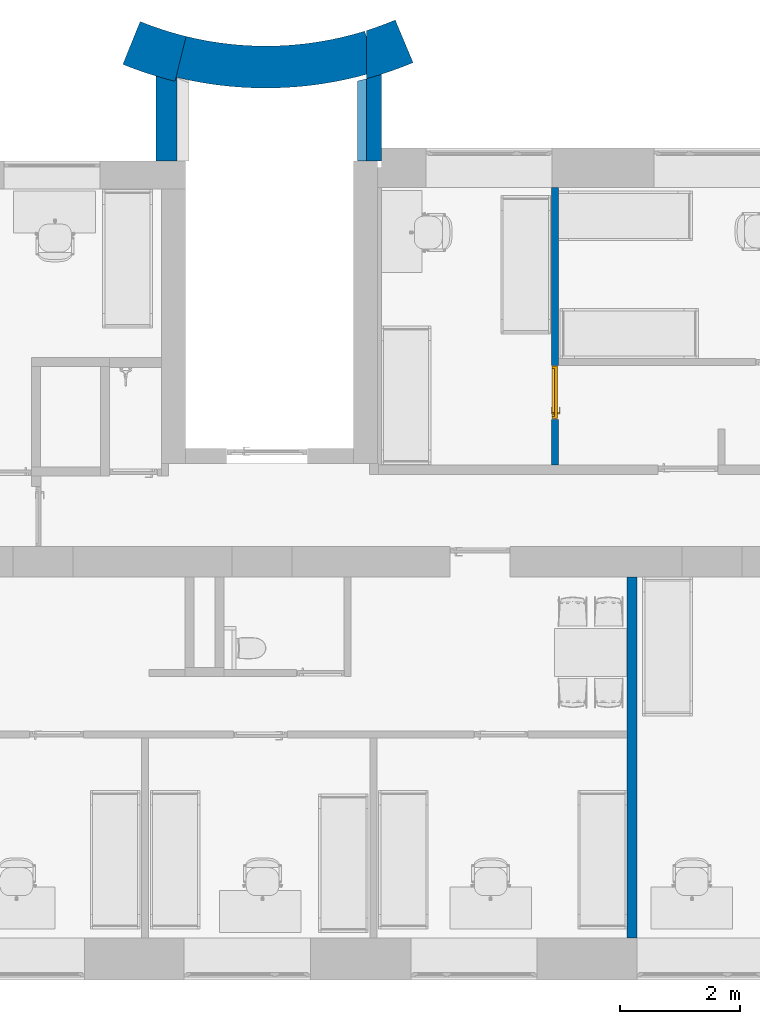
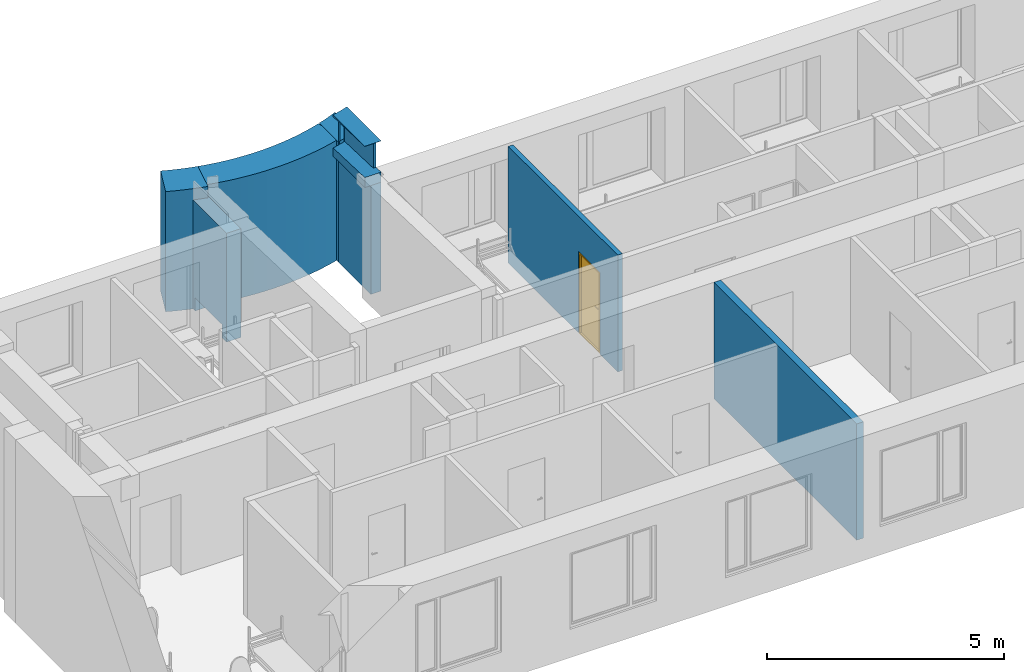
# One storey, part 7 of 46: 8 walls, 1 door, 5 openings.
"""IFC2X3 building model written with IfcOpenShell, lengths in millimetres."""

from ifc_helpers import new_model, entity, si_unit, converted_unit, derived_unit, direction, frame, frame_2d, origin, place, context, subcontext, project, spatial, polyline, circle_curve, parameter, trimmed, segment, composite_curve, rectangle, outline, extrude, clip, bounded_halfspace, faceted_brep, source, transform, mapped, material, material_list, layer, layer_set, layer_usage, type_object, type_shapes, element, fill, save


model = new_model("IFC2X3")

# Units and contexts
model_context = context("Model", 3, precision=0.01, world=origin(), true_north=direction((6.12303176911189e-17, 1.0)))
body_context = subcontext(model_context, "Body", "Model", "MODEL_VIEW")
ifc_project = project(units=[si_unit("LENGTHUNIT", "METRE", prefix="MILLI"), si_unit("AREAUNIT", "SQUARE_METRE"), si_unit("VOLUMEUNIT", "CUBIC_METRE"), converted_unit("PLANEANGLEUNIT", "DEGREE", entity("IfcRatioMeasure", 0.0174532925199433), si_unit("PLANEANGLEUNIT", "RADIAN"), dimensions=[0, 0, 0, 0, 0, 0, 0]), si_unit("MASSUNIT", "GRAM", prefix="KILO"), derived_unit("MASSDENSITYUNIT", [(si_unit("MASSUNIT", "GRAM", prefix="KILO"), 1), (si_unit("LENGTHUNIT", "METRE"), -3)]), si_unit("TIMEUNIT", "SECOND"), si_unit("FREQUENCYUNIT", "HERTZ"), si_unit("THERMODYNAMICTEMPERATUREUNIT", "DEGREE_CELSIUS"), derived_unit("THERMALTRANSMITTANCEUNIT", [(si_unit("MASSUNIT", "GRAM", prefix="KILO"), 1), (si_unit("THERMODYNAMICTEMPERATUREUNIT", "KELVIN"), -1), (si_unit("TIMEUNIT", "SECOND"), -3)]), derived_unit("VOLUMETRICFLOWRATEUNIT", [(si_unit("LENGTHUNIT", "METRE"), 3), (si_unit("TIMEUNIT", "SECOND"), -1)]), si_unit("ELECTRICCURRENTUNIT", "AMPERE"), si_unit("ELECTRICVOLTAGEUNIT", "VOLT"), si_unit("POWERUNIT", "WATT"), si_unit("FORCEUNIT", "NEWTON", prefix="KILO"), si_unit("ILLUMINANCEUNIT", "LUX"), si_unit("LUMINOUSFLUXUNIT", "LUMEN"), si_unit("LUMINOUSINTENSITYUNIT", "CANDELA"), derived_unit("USERDEFINED", [(si_unit("MASSUNIT", "GRAM", prefix="KILO"), -1), (si_unit("LENGTHUNIT", "METRE"), -2), (si_unit("TIMEUNIT", "SECOND"), 3), (si_unit("LUMINOUSFLUXUNIT", "LUMEN"), 1)]), derived_unit("LINEARVELOCITYUNIT", [(si_unit("LENGTHUNIT", "METRE"), 1), (si_unit("TIMEUNIT", "SECOND"), -1)]), si_unit("PRESSUREUNIT", "PASCAL"), derived_unit("USERDEFINED", [(si_unit("LENGTHUNIT", "METRE"), -2), (si_unit("MASSUNIT", "GRAM", prefix="KILO"), 1), (si_unit("TIMEUNIT", "SECOND"), -2)]), derived_unit("LINEARFORCEUNIT", [(si_unit("MASSUNIT", "GRAM", prefix="KILO"), 1), (si_unit("LENGTHUNIT", "METRE"), 1), (si_unit("TIMEUNIT", "SECOND"), -2), (si_unit("LENGTHUNIT", "METRE"), -1)]), derived_unit("PLANARFORCEUNIT", [(si_unit("MASSUNIT", "GRAM", prefix="KILO"), 1), (si_unit("LENGTHUNIT", "METRE"), 1), (si_unit("TIMEUNIT", "SECOND"), -2), (si_unit("LENGTHUNIT", "METRE"), -2)])], contexts=[model_context])

# Site, building, storey
site_placement = place(None, origin())
site = spatial("IfcSite", under=ifc_project, at=site_placement, Name="Default", CompositionType="ELEMENT")
building_placement = place(site_placement, origin())
building = spatial("IfcBuilding", under=site, at=building_placement, Name="SMA ARH", CompositionType="ELEMENT")
storey_placement = place(building_placement, frame((0.0, 0.0, 9910.0)))
storey = spatial("IfcBuildingStorey", under=building, at=storey_placement, Name="4 Korrus", CompositionType="ELEMENT", Elevation=9909.9999999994)

# Wall, opening
ifc_material_1 = material(Name="_ol.olev sein")
ifc_layer_1 = layer(ifc_material_1, 700.0)
ifc_layer_set_1 = layer_set([ifc_layer_1], Name="Basic Wall:Generic - 700mm")
ifc_layer_usage_1 = layer_usage(ifc_layer_set_1, "AXIS2", "POSITIVE", -350.0)
wall_type_1 = type_object("IfcWallType", Name="Basic Wall:Generic - 700mm", PredefinedType="STANDARD", material=ifc_layer_set_1)
wall_1_placement = place(storey_placement, frame((11890.0, 14774.5624846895, 0.0)))
wall_1 = element("IfcWallStandardCase", 1, at=wall_1_placement, inside=storey, type_object=wall_type_1, material=ifc_layer_usage_1, Name="Basic Wall:Generic - 700mm", ObjectType="Basic Wall:Generic - 700mm", context=body_context, shape_type="Clipping", body=[
    clip(extrude(outline(composite_curve([segment(trimmed(circle_curve(frame_2d((-1750.0, 5655.5764041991), x_axis=(1.0, 0.0)), 6270.13888888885), [parameter(256.197654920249)], [parameter(287.193589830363)], True, "PARAMETER"), True, "CONTINUOUS"), segment(polyline([(103.460410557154, -334.359003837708), (-103.460410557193, 334.359003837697)]), True, "CONTINUOUS"), segment(trimmed(circle_curve(frame_2d((-1750.0, 5655.5764041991), x_axis=(1.0, 0.0)), 5570.13888888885), [parameter(256.197654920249)], [parameter(287.193589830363)], True, "PARAMETER"), False, "CONTINUOUS"), segment(polyline([(-3078.88588861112, 246.277971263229), (-3245.88713231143, -433.509189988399)]), True, "CONTINUOUS")], self_intersect=False)), origin(), (0.0, 0.0, 1.0), 3090.00000000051), bounded_halfspace(frame((-70.0, 226.2230561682, 3090.0), z_axis=(-1.0, 0.0, 0.0), x_axis=(0.0, -1.0, 0.0)), True, frame((-70.0, 226.2230561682, 3090.0), z_axis=(-1.0, 0.0, 0.0), x_axis=(0.0, -1.0, 0.0)), polyline([(0.0, 0.0), (0.0, -3090.0), (611.527522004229, -3090.0), (611.527522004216, 0.0), (0.0, 0.0)]))),
])
opening_1_placement = place(wall_1_placement, origin())
element("IfcOpeningElement", 2, at=opening_1_placement, cuts=wall_1, Name="Basic Wall:Generic - 700mm", ObjectType="Recess", context=body_context, shape_type="SweptSolid", body=[
    extrude(rectangle(XDim=349.999999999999, YDim=1140.0, at=frame_2d((-5.40012479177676e-13, 0.0), x_axis=(1.0, 0.0))), frame((-3405.0, -1074.56248468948, -330.0)), (0.0, 0.0, 1.0), 669.999999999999),
])

ifc_layer_2 = layer(ifc_material_1, 400.0)
ifc_layer_set_2 = layer_set([ifc_layer_2], Name="Basic Wall:Generic - 400mm")
ifc_layer_usage_2 = layer_usage(ifc_layer_set_2, "AXIS2", "POSITIVE", -200.0)
wall_type_2 = type_object("IfcWallType", Name="Basic Wall:Generic - 400mm", PredefinedType="STANDARD", material=ifc_layer_set_2)
wall_2_placement = place(storey_placement, frame((11870.0, 12945.0, 2800.0), z_axis=(0.0, 0.0, 1.0), x_axis=(0.0, 1.0, 0.0)))
wall_2 = element("IfcWallStandardCase", 3, at=wall_2_placement, inside=storey, type_object=wall_type_2, material=ifc_layer_usage_2, Name="Basic Wall:Generic - 400mm", ObjectType="Basic Wall:Generic - 400mm", context=body_context, shape_type="SweptSolid", body=[
    extrude(outline(polyline([(1445.89546521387, -200.0), (1407.47666659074, -75.3761497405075), (1371.63484035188, 49.9914655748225), (1351.54867665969, 124.873139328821), (1332.37844089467, 200.0), (0.0, 200.0), (0.0, 50.0), (0.0, -200.0), (1445.89546521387, -200.0)])), origin(), (0.0, 0.0, 1.0), 1061.8270234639),
])
opening_2_placement = place(storey_placement, frame((11870.0, 12945.0, 2800.0), z_axis=(0.0, 0.0, 1.0), x_axis=(0.0, 1.0, 0.0)))
element("IfcOpeningElement", 4, at=opening_2_placement, cuts=wall_2, Name="Basic Wall:Generic - 400mm:1", ObjectType="Opening", context=body_context, shape_type="SweptSolid", body=[
    extrude(outline(polyline([(-351.932497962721, -87.7755249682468), (853.768661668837, -87.7755249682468), (805.172140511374, 78.2144253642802), (761.12398686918, 245.467324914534), (-572.066597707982, 245.467324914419), (-572.066597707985, -84.5326750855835), (-572.066597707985, -154.532675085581), (-351.932497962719, -154.532675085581), (-351.932497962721, -87.7755249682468)])), frame((571.718110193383, -45.4673249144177, 237.717732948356), z_axis=(0.0348994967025, 0.0, 0.999390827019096), x_axis=(0.999390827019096, 0.0, -0.0348994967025)), (-0.0348994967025, 0.0, 0.999390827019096), 800.487635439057),
])

# Wall
ifc_layer_3 = layer(ifc_material_1, 770.0)
ifc_layer_set_3 = layer_set([ifc_layer_3], Name="Basic Wall:Generic - 770mm")
ifc_layer_usage_3 = layer_usage(ifc_layer_set_3, "AXIS2", "POSITIVE", -385.0)
wall_type_3 = type_object("IfcWallType", Name="Basic Wall:Generic - 770mm", PredefinedType="STANDARD", material=ifc_layer_set_3)
wall_3_placement = place(storey_placement, frame((12444.4838887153, 14938.9611288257, 0.0)))
element("IfcWallStandardCase", 5, at=wall_3_placement, inside=storey, type_object=wall_type_3, material=ifc_layer_usage_3, Name="Basic Wall:Generic - 770mm", ObjectType="Basic Wall:Generic - 770mm", context=body_context, shape_type="SweptSolid", body=[
    extrude(outline(composite_curve([segment(polyline([(-624.483888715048, -622.328691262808), (-499.086654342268, -586.478198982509)]), True, "CONTINUOUS"), segment(polyline([(-499.086654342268, -586.478198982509), (-374.480318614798, -548.064517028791)]), True, "CONTINUOUS"), segment(polyline([(-374.480318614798, -548.064517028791), (-198.128190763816, -488.841203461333)]), True, "CONTINUOUS"), segment(polyline([(-198.128190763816, -488.841203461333), (-23.6022534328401, -424.474367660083)]), True, "CONTINUOUS"), segment(polyline([(-23.6022534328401, -424.474367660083), (148.984988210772, -355.004891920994)]), True, "CONTINUOUS"), segment(polyline([(148.984988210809, -355.004891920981), (-148.984988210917, 355.004891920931)]), True, "CONTINUOUS"), segment(trimmed(circle_curve(frame_2d((-2304.48388871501, 5491.17776006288), x_axis=(1.0, 0.0)), 5570.13888888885), [parameter(287.554225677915)], [parameter(292.766343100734)], True, "PARAMETER"), False, "CONTINUOUS"), segment(polyline([(-624.483888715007, 180.429484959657), (-624.483888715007, 61.8244120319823)]), True, "CONTINUOUS"), segment(polyline([(-624.483888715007, 61.8244120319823), (-624.483888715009, -549.703109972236)]), True, "CONTINUOUS"), segment(polyline([(-624.483888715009, -549.703109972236), (-624.483888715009, -622.328691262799)]), True, "CONTINUOUS")], self_intersect=False)), origin(), (0.0, 0.0, 1.0), 3090.00000000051),
])

# Wall, opening
ifc_layer_usage_4 = layer_usage(ifc_layer_set_3, "AXIS2", "POSITIVE", -385.0)
wall_4_placement = place(storey_placement, frame((8719.26342735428, 14646.9575172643, 0.0)))
wall_4 = element("IfcWallStandardCase", 6, at=wall_4_placement, inside=storey, type_object=wall_type_3, material=ifc_layer_usage_4, Name="Basic Wall:Generic - 770mm", ObjectType="Basic Wall:Generic - 770mm", context=body_context, shape_type="SweptSolid", body=[
    extrude(outline(composite_curve([segment(trimmed(circle_curve(frame_2d((1420.73657264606, 5783.1813716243), x_axis=(1.0, 0.0)), 6340.13888888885), [parameter(247.920826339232)], [parameter(256.19765492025)], True, "PARAMETER"), True, "CONTINUOUS"), segment(polyline([(-91.8506840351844, -373.882938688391), (91.8506840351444, 373.882938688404)]), True, "CONTINUOUS"), segment(trimmed(circle_curve(frame_2d((1420.73657264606, 5783.1813716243), x_axis=(1.0, 0.0)), 5570.13888888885), [parameter(247.920826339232)], [parameter(256.19765492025)], True, "PARAMETER"), False, "CONTINUOUS"), segment(polyline([(-673.008764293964, 621.526820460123), (-962.442105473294, -92.0054780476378)]), True, "CONTINUOUS")], self_intersect=False)), origin(), (0.0, 0.0, 1.0), 3090.00000000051),
])
opening_3_placement = place(wall_4_placement, origin())
element("IfcOpeningElement", 7, at=opening_3_placement, cuts=wall_4, Name="Basic Wall:Generic - 770mm", ObjectType="Recess", context=body_context, shape_type="SweptSolid", body=[
    extrude(rectangle(XDim=349.999999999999, YDim=1140.0, at=frame_2d((-5.40012479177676e-13, 0.0), x_axis=(1.0, 0.0))), frame((-234.263427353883, -946.957517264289, -330.0)), (0.0, 0.0, 1.0), 669.999999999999),
])

# Wall
ifc_layer_4 = layer(ifc_material_1, 250.0)
ifc_layer_set_4 = layer_set([ifc_layer_4], Name="Basic Wall:Generic - 250mm")
ifc_layer_usage_5 = layer_usage(ifc_layer_set_4, "AXIS2", "POSITIVE", -125.0)
wall_type_4 = type_object("IfcWallType", Name="Basic Wall:Generic - 250mm", PredefinedType="STANDARD", material=ifc_layer_set_4)
wall_5_placement = place(storey_placement, frame((11945.0, 12945.0, 0.0), z_axis=(0.0, 0.0, 1.0), x_axis=(0.0, 1.0, 0.0)))
element("IfcWallStandardCase", 8, at=wall_5_placement, inside=storey, type_object=wall_type_4, material=ifc_layer_usage_5, Name="Basic Wall:Generic - 250mm", ObjectType="Basic Wall:Generic - 250mm", context=body_context, shape_type="SweptSolid", body=[
    extrude(outline(composite_curve([segment(trimmed(circle_curve(frame_2d((7485.13888888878, 1805.0), x_axis=(0.0, -1.0)), 6340.13888888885), [parameter(285.365670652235)], [parameter(287.72265569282)], True, "PARAMETER"), False, "CONTINUOUS"), segment(polyline([(1371.6324375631, 125.0), (1368.62565157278, 125.0)]), True, "CONTINUOUS"), segment(polyline([(1368.62565157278, 125.0), (220.0, 125.0)]), True, "CONTINUOUS"), segment(polyline([(220.0, 125.0), (0.0, 125.0)]), True, "CONTINUOUS"), segment(polyline([(0.0, 125.0), (0.0, -55.0)]), True, "CONTINUOUS"), segment(polyline([(0.0, -55.0), (0.0, -125.0)]), True, "CONTINUOUS"), segment(polyline([(0.0, -125.0), (220.0, -125.0)]), True, "CONTINUOUS"), segment(polyline([(220.0, -125.0), (1442.68772492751, -125.0)]), True, "CONTINUOUS"), segment(polyline([(1442.68772492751, -125.0), (1445.89546521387, -125.0)]), True, "CONTINUOUS")], self_intersect=False)), origin(), (0.0, 0.0, 1.0), 2800.0),
])

# Wall, opening
ifc_layer_5 = layer(ifc_material_1, 350.0)
ifc_layer_set_5 = layer_set([ifc_layer_5], Name="Basic Wall:Generic - 350mm")
ifc_layer_usage_6 = layer_usage(ifc_layer_set_5, "AXIS2", "POSITIVE", -175.0)
wall_type_5 = type_object("IfcWallType", Name="Basic Wall:Generic - 350mm", PredefinedType="STANDARD", material=ifc_layer_set_5)
wall_6_placement = place(storey_placement, frame((8485.0, 14359.8455573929, 0.0), z_axis=(0.0, 0.0, 1.0), x_axis=(0.0, -1.0, 0.0)))
wall_6 = element("IfcWallStandardCase", 9, at=wall_6_placement, inside=storey, type_object=wall_type_5, material=ifc_layer_usage_6, Name="Basic Wall:Generic - 350mm", ObjectType="Basic Wall:Generic - 350mm", context=body_context, shape_type="SweptSolid", body=[
    extrude(outline(composite_curve([segment(polyline([(0.0, -175.0), (1413.64251449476, -175.0)]), True, "CONTINUOUS"), segment(polyline([(1413.64251449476, -175.0), (1413.64251449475, 175.0)]), True, "CONTINUOUS"), segment(polyline([(1413.64251449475, 175.0), (22.6732436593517, 175.0)]), True, "CONTINUOUS"), segment(trimmed(circle_curve(frame_2d((-6070.29333149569, 1655.0), x_axis=(0.295601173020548, -0.955311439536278)), 6270.13888888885), [parameter(59.004065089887)], [parameter(59.1535087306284)], True, "PARAMETER"), False, "CONTINUOUS"), segment(polyline([(18.7922626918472, 159.112867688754), (86.7709788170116, 142.412743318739)]), True, "CONTINUOUS"), segment(trimmed(circle_curve(frame_2d((-6070.29333149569, 1655.0), x_axis=(-0.238573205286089, -0.971124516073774)), 6340.13888888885), [parameter(87.0259597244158)], [parameter(90.0000000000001)], True, "PARAMETER"), False, "CONTINUOUS")], self_intersect=False)), origin(), (0.0, 0.0, 1.0), 2800.0),
])
opening_4_placement = place(wall_6_placement, origin())
element("IfcOpeningElement", 10, at=opening_4_placement, cuts=wall_6, Name="Basic Wall:Generic - 350mm", ObjectType="Opening", context=body_context, shape_type="SweptSolid", body=[
    extrude(rectangle(XDim=669.999999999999, YDim=1140.0, at=frame_2d((0.0, 0.0), x_axis=(0.0, 1.0))), frame((659.845557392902, -1349.0, 5.0), z_axis=(0.0, 1.0, 0.0), x_axis=(-1.0, 0.0, 0.0)), (0.0, 0.0, 1.0), 3048.0),
])

# Wall
ifc_material_2 = material(Name="EST. Ehitusplaat. Kipsplaat")
ifc_layer_6 = layer(ifc_material_2, 12.5)
ifc_layer_7 = layer(ifc_material_2, 12.5)
ifc_material_3 = material(Name="EST. Soojustus. Mineraalvill. Default")
ifc_layer_8 = layer(ifc_material_3, 50.0)
ifc_layer_9 = layer(ifc_material_2, 12.5)
ifc_layer_10 = layer(ifc_material_3, 50.0)
ifc_layer_11 = layer(ifc_material_2, 12.5)
ifc_layer_12 = layer(ifc_material_2, 12.5)
ifc_layer_set_6 = layer_set([ifc_layer_6, ifc_layer_7, ifc_layer_8, ifc_layer_9, ifc_layer_10, ifc_layer_11, ifc_layer_12], Name="Basic Wall:SS-04_Kips, 50+50 mm metallkarkass 2")
ifc_layer_usage_7 = layer_usage(ifc_layer_set_6, "AXIS2", "NEGATIVE", 81.25)
wall_type_6 = type_object("IfcWallType", Name="Basic Wall:SS-04_Kips, 50+50 mm metallkarkass 2", PredefinedType="STANDARD", material=ifc_layer_set_6)
wall_7_placement = place(storey_placement, frame((16239.2500000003, 0.0, 10.0), z_axis=(0.0, 0.0, 1.0), x_axis=(0.0, 1.0, 0.0)))
element("IfcWallStandardCase", 11, at=wall_7_placement, inside=storey, type_object=wall_type_6, material=ifc_layer_usage_7, Name="Basic Wall:SS-04_Kips, 50+50 mm metallkarkass 2", ObjectType="Basic Wall:SS-04_Kips, 50+50 mm metallkarkass 2", context=body_context, shape_type="Clipping", body=[
    clip(clip(extrude(rectangle(XDim=6010.00000000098, YDim=162.500000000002, at=frame_2d((3005.00000000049, 0.0), x_axis=(-1.0, 0.0))), origin(), (0.0, 0.0, 1.0), 2991.05000000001), bounded_halfspace(frame((0.0, -81.2499999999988, 2991.05000000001), z_axis=(0.0, 0.0, -1.0), x_axis=(1.0, 0.0, 0.0)), True, frame((0.0, -81.2499999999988, 2991.05000000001)), polyline([(0.0, 0.0), (6010.0, 0.0), (6010.0, 162.5), (3445.5000000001, 162.500000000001), (3329.5000000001, 162.5), (0.0, 162.5), (0.0, 0.0)]))), bounded_halfspace(frame((6010.0, -81.2499999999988, 0.0), z_axis=(0.0, 0.0, 1.0), x_axis=(-1.0, 0.0, 0.0)), True, frame((6010.0, -81.2499999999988, 0.0), z_axis=(0.0, 0.0, 1.0), x_axis=(-1.0, 0.0, 0.0)), polyline([(0.0, 0.0), (0.0, -162.5), (6010.0, -162.5), (6010.0, 0.0), (0.0, 0.0)]))),
])

# Wall, opening, door
ifc_layer_13 = layer(ifc_material_2, 12.5)
ifc_layer_14 = layer(ifc_material_2, 12.5)
ifc_layer_15 = layer(ifc_material_3, 66.0)
ifc_layer_16 = layer(ifc_material_2, 12.5)
ifc_layer_17 = layer(ifc_material_2, 12.5)
ifc_layer_set_7 = layer_set([ifc_layer_13, ifc_layer_14, ifc_layer_15, ifc_layer_16, ifc_layer_17], Name="Basic Wall:SS-05_Kips, 66mm metallkarkass")
ifc_layer_usage_8 = layer_usage(ifc_layer_set_7, "AXIS2", "NEGATIVE", 58.0)
wall_type_7 = type_object("IfcWallType", Name="Basic Wall:SS-05_Kips, 66mm metallkarkass", PredefinedType="STANDARD", material=ifc_layer_set_7)
wall_8_placement = place(storey_placement, frame((14957.5000000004, 12500.0, 0.0), z_axis=(0.0, 0.0, 1.0), x_axis=(0.0, -1.0, 0.0)))
wall_8 = element("IfcWallStandardCase", 12, at=wall_8_placement, inside=storey, type_object=wall_type_7, material=ifc_layer_usage_8, Name="Basic Wall:SS-05_Kips, 66mm metallkarkass", ObjectType="Basic Wall:SS-05_Kips, 66mm metallkarkass", context=body_context, shape_type="Clipping", body=[
    clip(extrude(rectangle(XDim=4617.49999061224, YDim=116.0, at=frame_2d((2308.74999530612, -1.17239551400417e-13), x_axis=(-1.0, 0.0))), origin(), (0.0, 0.0, 1.0), 3001.0500000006), bounded_halfspace(frame((0.0, -58.0, 3001.0500000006), z_axis=(0.0, 0.0, -1.0), x_axis=(-1.0, 0.0, 0.0)), True, frame((0.0, -58.0, 3001.0500000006)), polyline([(0.0, 0.0), (4617.49999061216, 0.0), (4617.49999061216, 116.0), (2959.0, 116.0), (2843.0, 116.0), (0.0, 116.0), (0.0, 0.0)]))),
])
opening_5_placement = place(wall_8_placement, frame((2959.0, -58.0, 0.0)))
opening_5 = element("IfcOpeningElement", 13, at=opening_5_placement, cuts=wall_8, Name="SMA_D01, 1-poolne:SU-P-05 - 900x2100 TUBA:1", ObjectType="Opening", context=body_context, shape_type="SweptSolid", body=[
    extrude(rectangle(XDim=2099.99999999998, YDim=900.0, at=frame_2d((1049.99999999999, 450.0), x_axis=(1.0, 0.0))), frame((0.0, 0.0, 0.0), z_axis=(0.0, 1.0, 0.0), x_axis=(0.0, 0.0, 1.0)), (0.0, 0.0, 1.0), 116.0),
])
ifc_material_4 = material(Name="EST. Metall. Alumiinium. Värvitud. RAL7023 (Concrete grey)")
ifc_material_5 = material(Name="<Unnamed>")
ifc_material_6 = material(Name="EST. Klaas. 3x. Default")
ifc_material_list = material_list([ifc_material_4, ifc_material_5, ifc_material_4, ifc_material_5, ifc_material_5, ifc_material_6, ifc_material_4])
door_style = type_object("IfcDoorStyle", Name="SMA_D01, 1-poolne:SU-P-05 - 900x2100 TUBA", ConstructionType="NOTDEFINED", OperationType="SINGLE_SWING_LEFT", ParameterTakesPrecedence=False, Sizeable=False, material=ifc_material_list)
shared_shape = source(origin(), body_context, "Body", "Brep", [
    faceted_brep([(790.0, 6.0, 1112.5), (695.0, 6.0, 1112.5), (695.0, 1.0, 1112.5), (815.0, 1.0, 1112.5), (815.0, 44.0, 1112.5), (790.0, 44.0, 1112.5), (790.0, 6.0, 1087.5), (790.0, 44.0, 1087.5), (815.0, 44.0, 1087.5), (815.0, 1.0, 1087.5), (695.0, 1.0, 1087.5), (695.0, 6.0, 1087.5)], [[[0, 1, 2, 3, 4, 5]], [[6, 7, 8, 9, 10, 11]], [[5, 7, 6, 0]], [[4, 8, 7, 5]], [[3, 9, 8, 4]], [[2, 10, 9, 3]], [[1, 11, 10, 2]], [[0, 6, 11, 1]]]),
    faceted_brep([(777.500000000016, 44.0, 1137.5), (827.500000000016, 44.0, 1137.5), (827.500000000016, 46.0, 1137.5), (777.500000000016, 46.0, 1137.5), (777.500000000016, 44.0, 1017.5), (777.500000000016, 46.0, 1017.5), (827.500000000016, 46.0, 1017.5), (827.500000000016, 44.0, 1017.5)], [[[0, 1, 2, 3]], [[4, 5, 6, 7]], [[3, 5, 4, 0]], [[2, 6, 5, 3]], [[1, 7, 6, 2]], [[0, 4, 7, 1]]]),
    faceted_brep([(790.0, 136.0, 1112.5), (790.0, 98.0, 1112.5), (815.0, 98.0, 1112.5), (815.0, 141.0, 1112.5), (695.0, 141.0, 1112.5), (695.0, 136.0, 1112.5), (790.0, 136.0, 1087.5), (695.0, 136.0, 1087.5), (695.0, 141.0, 1087.5), (815.0, 141.0, 1087.5), (815.0, 98.0, 1087.5), (790.0, 98.0, 1087.5)], [[[0, 1, 2, 3, 4, 5]], [[6, 7, 8, 9, 10, 11]], [[1, 0, 6, 11]], [[2, 1, 11, 10]], [[3, 2, 10, 9]], [[4, 3, 9, 8]], [[5, 4, 8, 7]], [[0, 5, 7, 6]]]),
    faceted_brep([(777.500000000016, 98.0, 1137.5), (777.500000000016, 96.0, 1137.5), (827.500000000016, 96.0, 1137.5), (827.500000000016, 98.0, 1137.5), (777.500000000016, 98.0, 1017.5), (827.500000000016, 98.0, 1017.5), (827.500000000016, 96.0, 1017.5), (777.500000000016, 96.0, 1017.5)], [[[0, 1, 2, 3]], [[4, 5, 6, 7]], [[1, 0, 4, 7]], [[2, 1, 7, 6]], [[3, 2, 6, 5]], [[0, 3, 5, 4]]]),
    faceted_brep([(50.0, 6.0, 30.0), (50.0, 46.0, 30.0), (50.0, 46.0, 20.0), (50.0, 46.0, 0.0), (50.0, 6.0, 0.0), (850.0, 6.0, 30.0), (850.0, 6.0, 0.0), (850.0, 46.0, 0.0), (850.0, 46.0, 20.0), (850.0, 46.0, 30.0), (35.0, 46.0, 0.0), (35.0, 96.0, 0.0), (865.0, 96.0, 0.0), (865.0, 46.0, 0.0), (35.0, 96.0, 20.0), (35.0, 46.0, 20.0), (865.0, 96.0, 20.0), (865.0, 46.0, 20.0)], [[[0, 1, 2, 3, 4]], [[5, 6, 7, 8, 9]], [[4, 6, 5, 0]], [[3, 10, 11, 12, 13, 7, 6, 4]], [[9, 8, 2, 1]], [[0, 5, 9, 1]], [[14, 11, 10, 15]], [[16, 17, 13, 12]], [[15, 2, 8, 17, 16, 14]], [[10, 3, 2, 15]], [[14, 16, 12, 11]], [[17, 8, 7, 13]]]),
    faceted_brep([(10.0, 6.0, 0.0), (10.0, 96.0, 0.0), (35.0, 96.0, 0.0), (35.0, 46.0, 0.0), (50.0, 46.0, 0.0), (50.0, 6.0, 0.0), (50.0, 6.0, 2050.0), (850.0, 6.0, 2050.0), (850.0, 6.0, 0.0), (890.0, 6.0, 0.0), (890.0, 6.0, 2090.0), (10.0, 6.0, 2090.0), (50.0, 46.0, 2050.0), (35.0, 46.0, 2065.0), (865.0, 46.0, 2065.0), (865.0, 46.0, 0.0), (850.0, 46.0, 0.0), (850.0, 46.0, 2050.0), (35.0, 96.0, 2065.0), (10.0, 96.0, 2090.0), (890.0, 96.0, 2090.0), (890.0, 96.0, 0.0), (865.0, 96.0, 0.0), (865.0, 96.0, 2065.0)], [[[0, 1, 2, 3, 4, 5]], [[5, 6, 7, 8, 9, 10, 11, 0]], [[4, 12, 6, 5]], [[3, 13, 14, 15, 16, 17, 12, 4]], [[2, 18, 13, 3]], [[1, 19, 20, 21, 22, 23, 18, 2]], [[0, 11, 19, 1]], [[9, 21, 20, 10]], [[8, 16, 15, 22, 21, 9]], [[7, 17, 16, 8]], [[14, 23, 22, 15]], [[6, 12, 17, 7]], [[13, 18, 23, 14]], [[10, 20, 19, 11]]]),
    faceted_brep([(865.0, 46.0, 2065.0), (35.0, 46.0, 2065.0), (35.0, 46.0, 20.0), (865.0, 46.0, 20.0), (865.0, 96.0, 2065.0), (865.0, 96.0, 20.0), (35.0, 96.0, 20.0), (35.0, 96.0, 2065.0)], [[[0, 1, 2, 3]], [[4, 5, 6, 7]], [[3, 5, 4, 0]], [[2, 6, 5, 3]], [[1, 7, 6, 2]], [[0, 4, 7, 1]]]),
])
type_shapes(door_style, [shared_shape])
door_placement = place(opening_5_placement, origin())
door = element("IfcDoor", 14, at=door_placement, inside=storey, type_object=door_style, material=ifc_material_4, Name="SMA_D01, 1-poolne:SU-P-05 - 900x2100 TUBA", ObjectType="SMA_D01, 1-poolne:SU-P-05 - 900x2100 TUBA", OverallHeight=2099.99999999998, OverallWidth=900.0, context=body_context, shape_type="MappedRepresentation", body=[
    mapped(shared_shape, transform((0.0, 0.0, 0.0), scale=1.0)),
])
fill(opening_5, door)

save(model, "model.ifc")
